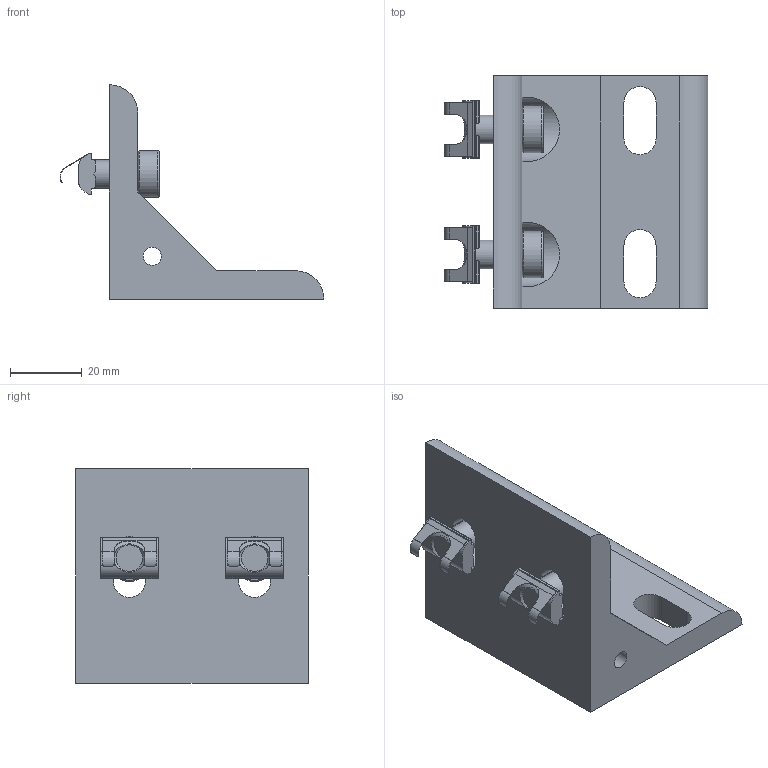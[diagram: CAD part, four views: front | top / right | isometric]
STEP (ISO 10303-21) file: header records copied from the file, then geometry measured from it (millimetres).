
FILE_DESCRIPTION(/* description */ ('Unknown'),/* implementation_level */ '2;1');
FILE_NAME(/* name */ '113.00150_00',/* time_stamp */ '2022-02-14T14:21:16+01:00',/* author */ ('Unknown'),/* organization */ ('Unknown'),/* preprocessor_version */ 'ST-DEVELOPER v18.1',/* originating_system */ 'Solid Edge',/* authorisation */ 'Unknown');
FILE_SCHEMA (('AUTOMOTIVE_DESIGN {1 0 10303 214 3 1 1}'));
Length unit declared in the file: millimetre
Products named in the file (4): 113.00150; 142.00277; 142.00134; 142.00218
Assembly tree (5 placements, depth 2):
  113.00150
    142.00277
    142.00134  x2
    142.00218  x2
Bounding box: 73.79 x 65 x 60 mm (x, y, z)
Volume: 68849.7 mm3; surface area: 21490.6 mm2
Topology: 5 solids, 5 shells, 184 faces, 510 edges, 336 vertices
Faces by surface type: plane 107, cylinder 65, cone 10, torus 2
Full cylindrical faces by diameter (mm): 5 x1, 6.647 x2, 8 x2, 13 x2
Entity records: 4086 total; most frequent: CARTESIAN_POINT 668, DIRECTION 586, ORIENTED_EDGE 576, EDGE_CURVE 288, AXIS2_PLACEMENT_3D 202, VERTEX_POINT 194, LINE 182, VECTOR 182
